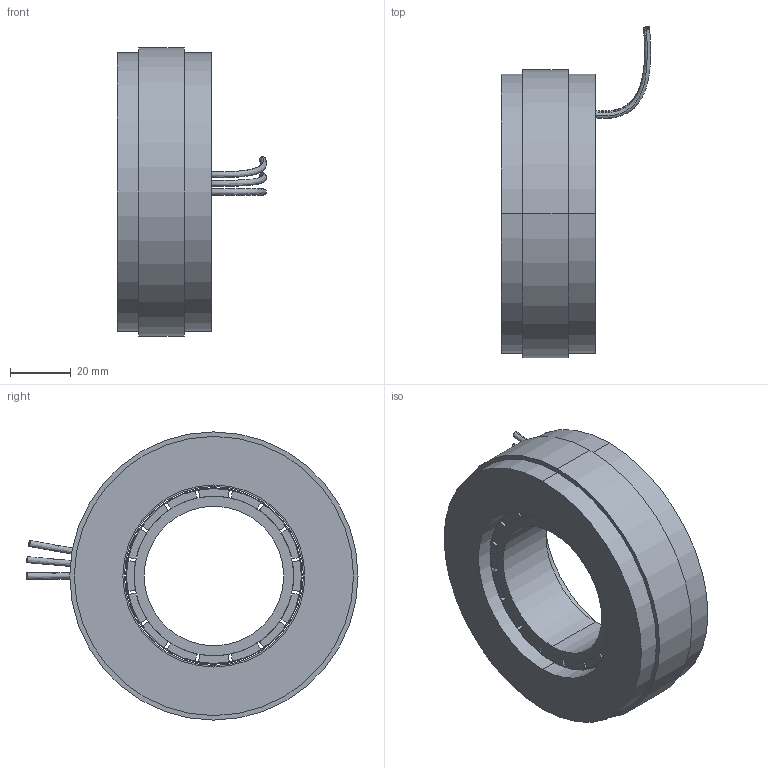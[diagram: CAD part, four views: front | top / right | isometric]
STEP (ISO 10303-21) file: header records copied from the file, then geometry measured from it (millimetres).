
FILE_DESCRIPTION (( 'STEP AP203' ), '1' );
FILE_NAME ('KMF-095AMNN 軞蚾饜芞潠芞.STEP', '2020-05-15T06:07:43', ( '' ), ( '' ), 'SwSTEP 2.0', 'SolidWorks 2016', '' );
FILE_SCHEMA (( 'CONFIG_CONTROL_DESIGN' ));
Length unit declared in the file: millimetre
Products named in the file (6): KMF011P1701 抯玹峎杶奪; KMF011A3001 蛌赽郪璃; KMF011P1301 棠濎; KMF01103401 磁钢（95）; KMF-095AMNN 軞蚾饜芞潠芞; KMF011A2001 隅赽郪璃潠芞
Assembly tree (20 placements, depth 3):
  KMF-095AMNN 軞蚾饜芞潠芞
    KMF011A2001 隅赽郪璃潠芞
    KMF011A3001 蛌赽郪璃
      KMF011P1301 棠濎
      KMF01103401 磁钢（95）  x16
      KMF011P1701 抯玹峎杶奪
Bounding box: 49.15 x 109.45 x 95 mm (x, y, z)
Volume: 145858.6 mm3; surface area: 47383.2 mm2
Topology: 19 solids, 19 shells, 231 faces, 558 edges, 372 vertices
Faces by surface type: cylinder 148, plane 77, bspline 6
Entity records: 3162 total; most frequent: CARTESIAN_POINT 915, DIRECTION 308, ORIENTED_EDGE 216, AXIS2_PLACEMENT_3D 137, EDGE_CURVE 108, VERTEX_POINT 72, DATE_AND_TIME 70, LOCAL_TIME 70
